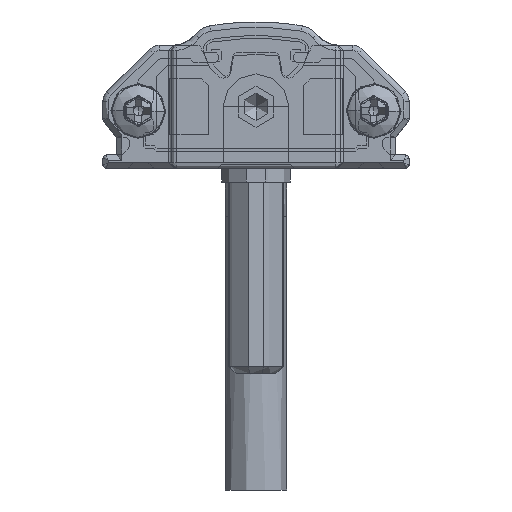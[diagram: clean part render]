
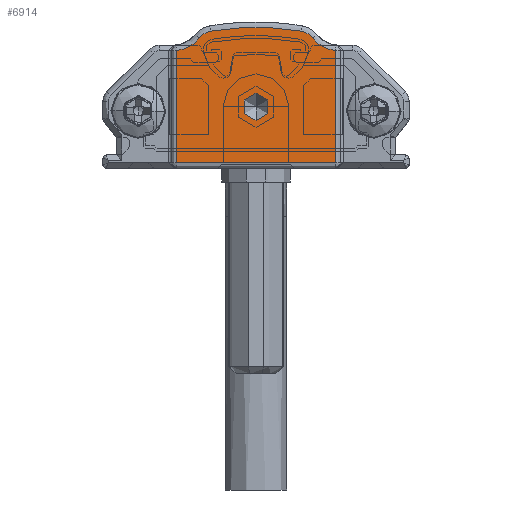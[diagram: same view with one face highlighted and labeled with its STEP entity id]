
A CAD part, front view. The second image highlights one B-rep face of the part: STEP entity #6914.
In plain terms, the highlighted planar face has unit normal (0, -1, 0).
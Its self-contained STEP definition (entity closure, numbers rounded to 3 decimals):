
#586 = EDGE_CURVE ( 'NONE', #22884, #21491, #4182, .T. ) ;
#1200 = VERTEX_POINT ( 'NONE', #13121 ) ;
#1261 = FACE_OUTER_BOUND ( 'NONE', #14436, .T. ) ;
#2226 = VERTEX_POINT ( 'NONE', #5968 ) ;
#2258 = CARTESIAN_POINT ( 'NONE',  ( 17., -15., 8.612 ) ) ;
#2389 = CIRCLE ( 'NONE', #31488, 1.3 ) ;
#2613 = DIRECTION ( 'NONE',  ( 0., -1., 0. ) ) ;
#2776 = VERTEX_POINT ( 'NONE', #19238 ) ;
#3138 = AXIS2_PLACEMENT_3D ( 'NONE', #18582, #8270, #28836 ) ;
#3256 = CARTESIAN_POINT ( 'NONE',  ( 5.162, -15., 11. ) ) ;
#4182 = CIRCLE ( 'NONE', #13324, 1. ) ;
#4514 = VECTOR ( 'NONE', #5119, 1000. ) ;
#5058 = DIRECTION ( 'NONE',  ( 0., -1., 0. ) ) ;
#5119 = DIRECTION ( 'NONE',  ( 0., 0., 1. ) ) ;
#5778 = VERTEX_POINT ( 'NONE', #28669 ) ;
#5968 = CARTESIAN_POINT ( 'NONE',  ( 17., -15., 8.612 ) ) ;
#6170 = DIRECTION ( 'NONE',  ( 0., -1., 0. ) ) ;
#6514 = CARTESIAN_POINT ( 'NONE',  ( 22.15, -15., 3.606 ) ) ;
#6597 = EDGE_CURVE ( 'NONE', #29900, #27860, #2389, .T. ) ;
#6717 = DIRECTION ( 'NONE',  ( 0., -1., 0. ) ) ;
#6914 = ADVANCED_FACE ( 'NONE', ( #1261, #29300 ), #19346, .T. ) ;
#7326 = DIRECTION ( 'NONE',  ( 0., 0., -1. ) ) ;
#7634 = LINE ( 'NONE', #7799, #30130 ) ;
#7799 = CARTESIAN_POINT ( 'NONE',  ( 17., -15., 0.4 ) ) ;
#8270 = DIRECTION ( 'NONE',  ( 0., 1., 0. ) ) ;
#9711 = LINE ( 'NONE', #2258, #4514 ) ;
#9921 = CARTESIAN_POINT ( 'NONE',  ( 11.2, -15., 5.5 ) ) ;
#10029 = CARTESIAN_POINT ( 'NONE',  ( 11.2, -15., 4.5 ) ) ;
#10056 = ORIENTED_EDGE ( 'NONE', *, *, #24813, .T. ) ;
#10160 = VERTEX_POINT ( 'NONE', #10839 ) ;
#10168 = DIRECTION ( 'NONE',  ( 1., 0., 0. ) ) ;
#10506 = EDGE_CURVE ( 'NONE', #2776, #10160, #31238, .T. ) ;
#10648 = DIRECTION ( 'NONE',  ( 0., 0., -1. ) ) ;
#10780 = ORIENTED_EDGE ( 'NONE', *, *, #22275, .F. ) ;
#10839 = CARTESIAN_POINT ( 'NONE',  ( 5.4, -15., 0.4 ) ) ;
#11430 = EDGE_CURVE ( 'NONE', #10160, #22207, #7634, .T. ) ;
#11491 = EDGE_LOOP ( 'NONE', ( #10780, #24941 ) ) ;
#12585 = CIRCLE ( 'NONE', #16382, 2.4 ) ;
#13121 = CARTESIAN_POINT ( 'NONE',  ( 7.068, -15., 9.541 ) ) ;
#13248 = DIRECTION ( 'NONE',  ( 0., 0., -1. ) ) ;
#13324 = AXIS2_PLACEMENT_3D ( 'NONE', #25165, #5058, #33417 ) ;
#13552 = DIRECTION ( 'NONE',  ( 0., 1., 0. ) ) ;
#13896 = VECTOR ( 'NONE', #17959, 1000. ) ;
#14192 = ORIENTED_EDGE ( 'NONE', *, *, #20557, .T. ) ;
#14382 = ORIENTED_EDGE ( 'NONE', *, *, #31646, .T. ) ;
#14436 = EDGE_LOOP ( 'NONE', ( #10056, #14192, #25070, #32626, #20589, #14382, #24179, #31802 ) ) ;
#14485 = CIRCLE ( 'NONE', #3138, 2.4 ) ;
#16382 = AXIS2_PLACEMENT_3D ( 'NONE', #3256, #13552, #23859 ) ;
#17959 = DIRECTION ( 'NONE',  ( 0., 0., -1. ) ) ;
#18121 = DIRECTION ( 'NONE',  ( 0., -1., 0. ) ) ;
#18582 = CARTESIAN_POINT ( 'NONE',  ( 17.238, -15., 11. ) ) ;
#19238 = CARTESIAN_POINT ( 'NONE',  ( 5.4, -15., 8.612 ) ) ;
#19346 = PLANE ( 'NONE',  #21225 ) ;
#19386 = CARTESIAN_POINT ( 'NONE',  ( 14.3, -15., 8.75 ) ) ;
#20345 = CARTESIAN_POINT ( 'NONE',  ( 15.332, -15., 9.541 ) ) ;
#20557 = EDGE_CURVE ( 'NONE', #2226, #29900, #14485, .T. ) ;
#20570 = CARTESIAN_POINT ( 'NONE',  ( 5.4, -15., 0.4 ) ) ;
#20589 = ORIENTED_EDGE ( 'NONE', *, *, #30763, .T. ) ;
#21147 = CARTESIAN_POINT ( 'NONE',  ( 11.2, -15., 3.5 ) ) ;
#21225 = AXIS2_PLACEMENT_3D ( 'NONE', #6514, #6170, #26772 ) ;
#21491 = VERTEX_POINT ( 'NONE', #21147 ) ;
#21999 = CARTESIAN_POINT ( 'NONE',  ( 17., -15., 0.4 ) ) ;
#22207 = VERTEX_POINT ( 'NONE', #21999 ) ;
#22275 = EDGE_CURVE ( 'NONE', #21491, #22884, #27507, .T. ) ;
#22717 = CIRCLE ( 'NONE', #25976, 20.676 ) ;
#22884 = VERTEX_POINT ( 'NONE', #9921 ) ;
#23859 = DIRECTION ( 'NONE',  ( 0., 0., -1. ) ) ;
#24179 = ORIENTED_EDGE ( 'NONE', *, *, #10506, .T. ) ;
#24368 = CARTESIAN_POINT ( 'NONE',  ( 14.508, -15., 10.034 ) ) ;
#24813 = EDGE_CURVE ( 'NONE', #22207, #2226, #9711, .T. ) ;
#24941 = ORIENTED_EDGE ( 'NONE', *, *, #586, .F. ) ;
#25070 = ORIENTED_EDGE ( 'NONE', *, *, #6597, .T. ) ;
#25165 = CARTESIAN_POINT ( 'NONE',  ( 11.2, -15., 4.5 ) ) ;
#25976 = AXIS2_PLACEMENT_3D ( 'NONE', #33290, #18121, #10648 ) ;
#26772 = DIRECTION ( 'NONE',  ( 0., 0., -1. ) ) ;
#26981 = EDGE_CURVE ( 'NONE', #27860, #5778, #22717, .T. ) ;
#27507 = CIRCLE ( 'NONE', #31811, 1. ) ;
#27860 = VERTEX_POINT ( 'NONE', #24368 ) ;
#28098 = CARTESIAN_POINT ( 'NONE',  ( 8.1, -15., 8.75 ) ) ;
#28669 = CARTESIAN_POINT ( 'NONE',  ( 7.892, -15., 10.034 ) ) ;
#28836 = DIRECTION ( 'NONE',  ( 0., 0., -1. ) ) ;
#29300 = FACE_BOUND ( 'NONE', #11491, .T. ) ;
#29339 = DIRECTION ( 'NONE',  ( 0., 0., -1. ) ) ;
#29900 = VERTEX_POINT ( 'NONE', #20345 ) ;
#30106 = CIRCLE ( 'NONE', #32263, 1.3 ) ;
#30130 = VECTOR ( 'NONE', #10168, 1000. ) ;
#30763 = EDGE_CURVE ( 'NONE', #5778, #1200, #30106, .T. ) ;
#30943 = DIRECTION ( 'NONE',  ( 0., -1., 0. ) ) ;
#31238 = LINE ( 'NONE', #20570, #13896 ) ;
#31488 = AXIS2_PLACEMENT_3D ( 'NONE', #19386, #6717, #29339 ) ;
#31646 = EDGE_CURVE ( 'NONE', #1200, #2776, #12585, .T. ) ;
#31802 = ORIENTED_EDGE ( 'NONE', *, *, #11430, .T. ) ;
#31811 = AXIS2_PLACEMENT_3D ( 'NONE', #10029, #30943, #7326 ) ;
#32263 = AXIS2_PLACEMENT_3D ( 'NONE', #28098, #2613, #13248 ) ;
#32626 = ORIENTED_EDGE ( 'NONE', *, *, #26981, .T. ) ;
#33290 = CARTESIAN_POINT ( 'NONE',  ( 11.2, -15., -10.376 ) ) ;
#33417 = DIRECTION ( 'NONE',  ( 0., 0., -1. ) ) ;
